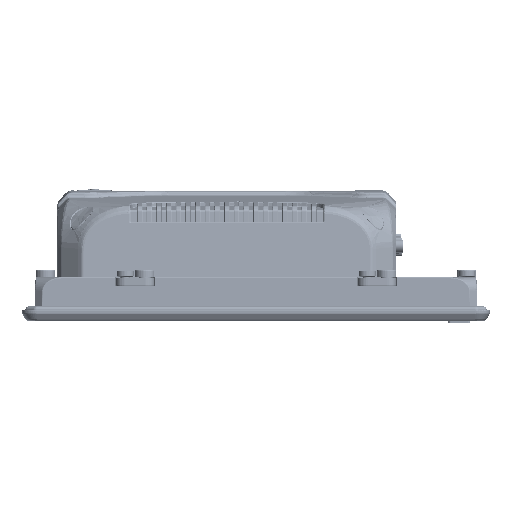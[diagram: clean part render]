
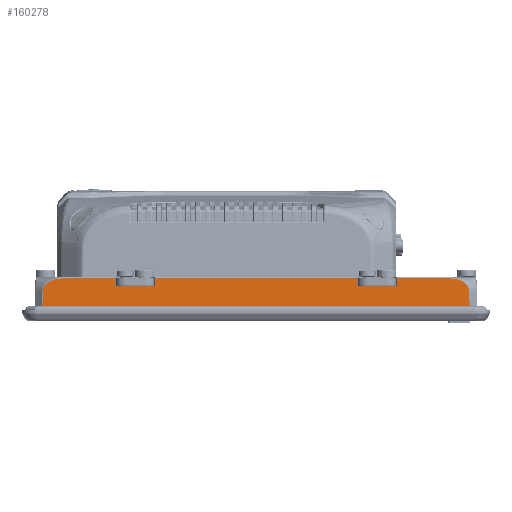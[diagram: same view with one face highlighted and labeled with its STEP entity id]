
A CAD part, left-side view. The second image highlights one B-rep face of the part: STEP entity #160278.
In plain terms, the highlighted planar face has unit normal (-0.999, 0, 0.035).
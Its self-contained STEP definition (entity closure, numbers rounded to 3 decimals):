
#7983 = VERTEX_POINT ( 'NONE', #579256 ) ;
#15478 = DIRECTION ( 'NONE',  ( 0.035, 0.035, 0.999 ) ) ;
#18681 = VECTOR ( 'NONE', #473325, 1000. ) ;
#19926 = LINE ( 'NONE', #498591, #484346 ) ;
#27177 = CARTESIAN_POINT ( 'NONE',  ( -221.084, -92.899, 257.82 ) ) ;
#30843 = ORIENTED_EDGE ( 'NONE', *, *, #470542, .T. ) ;
#35170 =( BOUNDED_CURVE ( )  B_SPLINE_CURVE ( 3, ( #357947, #43506, #312762, #403100 ),
 .UNSPECIFIED., .F., .F. ) 
 B_SPLINE_CURVE_WITH_KNOTS ( ( 4, 4 ),
 ( 3.142, 4.663 ),
 .UNSPECIFIED. ) 
 CURVE ( )  GEOMETRIC_REPRESENTATION_ITEM ( )  RATIONAL_B_SPLINE_CURVE ( ( 1., 0.816, 0.816, 1. ) ) 
 REPRESENTATION_ITEM ( '' )  );
#36809 = CARTESIAN_POINT ( 'NONE',  ( -220.901, 75.545, 263.049 ) ) ;
#41771 = CARTESIAN_POINT ( 'NONE',  ( -221.007, -63.137, 260.032 ) ) ;
#43506 = CARTESIAN_POINT ( 'NONE',  ( -220.976, -92.791, 260.914 ) ) ;
#46671 = EDGE_CURVE ( 'NONE', #563273, #450547, #294664, .T. ) ;
#49459 = CARTESIAN_POINT ( 'NONE',  ( -221.007, -46.637, 260.032 ) ) ;
#55520 = VECTOR ( 'NONE', #217317, 1000. ) ;
#56630 = EDGE_CURVE ( 'NONE', #495475, #505314, #35170, .T. ) ;
#59089 = LINE ( 'NONE', #192688, #164607 ) ;
#61609 = LINE ( 'NONE', #556279, #286669 ) ;
#78154 = CARTESIAN_POINT ( 'NONE',  ( -221.356, -96.38, 250.032 ) ) ;
#79892 = CARTESIAN_POINT ( 'NONE',  ( -221.356, -46.637, 250.032 ) ) ;
#82167 = CARTESIAN_POINT ( 'NONE',  ( -221.084, 83.135, 257.82 ) ) ;
#92432 = LINE ( 'NONE', #437005, #493415 ) ;
#101283 = LINE ( 'NONE', #570487, #220792 ) ;
#101887 = EDGE_CURVE ( 'NONE', #477112, #161317, #320913, .T. ) ;
#121324 = PLANE ( 'NONE',  #259828 ) ;
#123256 = DIRECTION ( 'NONE',  ( 0., -1., 0. ) ) ;
#125605 = CARTESIAN_POINT ( 'NONE',  ( -220.901, 75.545, 263.049 ) ) ;
#129260 = ORIENTED_EDGE ( 'NONE', *, *, #56630, .T. ) ;
#129906 = CARTESIAN_POINT ( 'NONE',  ( -220.901, -85.318, 263.049 ) ) ;
#144403 = VERTEX_POINT ( 'NONE', #391215 ) ;
#146573 = EDGE_CURVE ( 'NONE', #190477, #7983, #191123, .T. ) ;
#148814 = VECTOR ( 'NONE', #305869, 1000. ) ;
#152658 = EDGE_CURVE ( 'NONE', #432463, #340642, #497233, .T. ) ;
#153595 = CARTESIAN_POINT ( 'NONE',  ( -221.356, 83.407, 250.025 ) ) ;
#154350 = VERTEX_POINT ( 'NONE', #293663 ) ;
#155131 = ORIENTED_EDGE ( 'NONE', *, *, #101887, .T. ) ;
#155373 = CARTESIAN_POINT ( 'NONE',  ( -221.356, 36.863, 250.032 ) ) ;
#157433 = ORIENTED_EDGE ( 'NONE', *, *, #568272, .T. ) ;
#160278 = ADVANCED_FACE ( 'NONE', ( #267614 ), #121324, .F. ) ;
#161317 = VERTEX_POINT ( 'NONE', #285316 ) ;
#162577 = ORIENTED_EDGE ( 'NONE', *, *, #380194, .F. ) ;
#164607 = VECTOR ( 'NONE', #283143, 1000. ) ;
#168293 = CARTESIAN_POINT ( 'NONE',  ( -220.901, 75.061, 263.049 ) ) ;
#180171 = LINE ( 'NONE', #513410, #524787 ) ;
#180368 = LINE ( 'NONE', #153595, #524976 ) ;
#183962 = CARTESIAN_POINT ( 'NONE',  ( -221.356, -96.38, 250.032 ) ) ;
#190477 = VERTEX_POINT ( 'NONE', #237775 ) ;
#191123 = LINE ( 'NONE', #155373, #310686 ) ;
#192688 = CARTESIAN_POINT ( 'NONE',  ( -221.356, -63.137, 250.032 ) ) ;
#197999 = ORIENTED_EDGE ( 'NONE', *, *, #567509, .T. ) ;
#213545 = DIRECTION ( 'NONE',  ( 0., 1., 0. ) ) ;
#217317 = DIRECTION ( 'NONE',  ( 0., -1., 0. ) ) ;
#218406 = CARTESIAN_POINT ( 'NONE',  ( -221.356, 83.407, 250.032 ) ) ;
#220792 = VECTOR ( 'NONE', #576349, 1000. ) ;
#228991 = ORIENTED_EDGE ( 'NONE', *, *, #46671, .T. ) ;
#237775 = CARTESIAN_POINT ( 'NONE',  ( -220.901, 36.863, 263.049 ) ) ;
#258074 = LINE ( 'NONE', #168293, #483143 ) ;
#259828 = AXIS2_PLACEMENT_3D ( 'NONE', #78154, #392406, #123256 ) ;
#262887 = ORIENTED_EDGE ( 'NONE', *, *, #146573, .T. ) ;
#267614 = FACE_OUTER_BOUND ( 'NONE', #334813, .T. ) ;
#283143 = DIRECTION ( 'NONE',  ( -0.035, 0., -0.999 ) ) ;
#285316 = CARTESIAN_POINT ( 'NONE',  ( -221.084, 83.135, 257.82 ) ) ;
#286669 = VECTOR ( 'NONE', #15478, 1000. ) ;
#292892 = DIRECTION ( 'NONE',  ( -0.035, 0., -0.999 ) ) ;
#293663 = CARTESIAN_POINT ( 'NONE',  ( -220.901, -46.637, 263.049 ) ) ;
#294664 = LINE ( 'NONE', #183962, #55520 ) ;
#304250 = CARTESIAN_POINT ( 'NONE',  ( -220.901, 79.927, 263.049 ) ) ;
#305869 = DIRECTION ( 'NONE',  ( 0.035, 0., 0.999 ) ) ;
#310686 = VECTOR ( 'NONE', #292892, 1000. ) ;
#312762 = CARTESIAN_POINT ( 'NONE',  ( -220.901, -89.695, 263.049 ) ) ;
#320913 =( BOUNDED_CURVE ( )  B_SPLINE_CURVE ( 3, ( #36809, #304250, #575612, #82167 ),
 .UNSPECIFIED., .F., .F. ) 
 B_SPLINE_CURVE_WITH_KNOTS ( ( 4, 4 ),
 ( 4.762, 6.283 ),
 .UNSPECIFIED. ) 
 CURVE ( )  GEOMETRIC_REPRESENTATION_ITEM ( )  RATIONAL_B_SPLINE_CURVE ( ( 1., 0.816, 0.816, 1. ) ) 
 REPRESENTATION_ITEM ( '' )  );
#334813 = EDGE_LOOP ( 'NONE', ( #390582, #197999, #385617, #157433, #443897, #262887, #162577, #499668, #508638, #155131, #30843, #228991, #434804, #129260 ) ) ;
#340642 = VERTEX_POINT ( 'NONE', #501694 ) ;
#357947 = CARTESIAN_POINT ( 'NONE',  ( -221.084, -92.899, 257.82 ) ) ;
#365806 = EDGE_CURVE ( 'NONE', #505314, #144403, #19926, .T. ) ;
#372130 = EDGE_CURVE ( 'NONE', #340642, #477112, #180171, .T. ) ;
#380194 = EDGE_CURVE ( 'NONE', #432463, #7983, #92432, .T. ) ;
#382840 = CARTESIAN_POINT ( 'NONE',  ( -221.356, 53.363, 250.032 ) ) ;
#385617 = ORIENTED_EDGE ( 'NONE', *, *, #499490, .F. ) ;
#390582 = ORIENTED_EDGE ( 'NONE', *, *, #365806, .T. ) ;
#391215 = CARTESIAN_POINT ( 'NONE',  ( -220.901, -63.137, 263.049 ) ) ;
#392406 = DIRECTION ( 'NONE',  ( 0.999, 0., -0.035 ) ) ;
#399127 = VERTEX_POINT ( 'NONE', #41771 ) ;
#403100 = CARTESIAN_POINT ( 'NONE',  ( -220.901, -85.318, 263.049 ) ) ;
#432463 = VERTEX_POINT ( 'NONE', #504393 ) ;
#433099 = DIRECTION ( 'NONE',  ( 0., -1., 0. ) ) ;
#434804 = ORIENTED_EDGE ( 'NONE', *, *, #549426, .T. ) ;
#437005 = CARTESIAN_POINT ( 'NONE',  ( -221.007, -96.38, 260.032 ) ) ;
#437120 = CARTESIAN_POINT ( 'NONE',  ( -221.356, -93.171, 250.032 ) ) ;
#443897 = ORIENTED_EDGE ( 'NONE', *, *, #581794, .T. ) ;
#450547 = VERTEX_POINT ( 'NONE', #437120 ) ;
#457116 = DIRECTION ( 'NONE',  ( 0., 1., 0. ) ) ;
#470542 = EDGE_CURVE ( 'NONE', #161317, #563273, #180368, .T. ) ;
#473325 = DIRECTION ( 'NONE',  ( 0.035, 0., 0.999 ) ) ;
#477112 = VERTEX_POINT ( 'NONE', #125605 ) ;
#483143 = VECTOR ( 'NONE', #213545, 1000. ) ;
#484346 = VECTOR ( 'NONE', #457116, 1000. ) ;
#493415 = VECTOR ( 'NONE', #433099, 1000. ) ;
#495475 = VERTEX_POINT ( 'NONE', #27177 ) ;
#497233 = LINE ( 'NONE', #382840, #18681 ) ;
#498591 = CARTESIAN_POINT ( 'NONE',  ( -220.901, 75.061, 263.049 ) ) ;
#499490 = EDGE_CURVE ( 'NONE', #574053, #399127, #101283, .T. ) ;
#499668 = ORIENTED_EDGE ( 'NONE', *, *, #152658, .T. ) ;
#501694 = CARTESIAN_POINT ( 'NONE',  ( -220.901, 53.363, 263.049 ) ) ;
#504393 = CARTESIAN_POINT ( 'NONE',  ( -221.007, 53.363, 260.032 ) ) ;
#505314 = VERTEX_POINT ( 'NONE', #129906 ) ;
#507628 = LINE ( 'NONE', #79892, #148814 ) ;
#508638 = ORIENTED_EDGE ( 'NONE', *, *, #372130, .T. ) ;
#513410 = CARTESIAN_POINT ( 'NONE',  ( -220.901, 75.061, 263.049 ) ) ;
#524787 = VECTOR ( 'NONE', #558771, 1000. ) ;
#524976 = VECTOR ( 'NONE', #558670, 1000. ) ;
#549426 = EDGE_CURVE ( 'NONE', #450547, #495475, #61609, .T. ) ;
#556279 = CARTESIAN_POINT ( 'NONE',  ( -221.084, -92.899, 257.82 ) ) ;
#558670 = DIRECTION ( 'NONE',  ( -0.035, 0.035, -0.999 ) ) ;
#558771 = DIRECTION ( 'NONE',  ( 0., 1., 0. ) ) ;
#563273 = VERTEX_POINT ( 'NONE', #218406 ) ;
#567509 = EDGE_CURVE ( 'NONE', #144403, #399127, #59089, .T. ) ;
#568272 = EDGE_CURVE ( 'NONE', #574053, #154350, #507628, .T. ) ;
#570487 = CARTESIAN_POINT ( 'NONE',  ( -221.007, -96.38, 260.032 ) ) ;
#574053 = VERTEX_POINT ( 'NONE', #49459 ) ;
#575612 = CARTESIAN_POINT ( 'NONE',  ( -220.976, 83.027, 260.914 ) ) ;
#576349 = DIRECTION ( 'NONE',  ( 0., -1., 0. ) ) ;
#579256 = CARTESIAN_POINT ( 'NONE',  ( -221.007, 36.863, 260.032 ) ) ;
#581794 = EDGE_CURVE ( 'NONE', #154350, #190477, #258074, .T. ) ;
